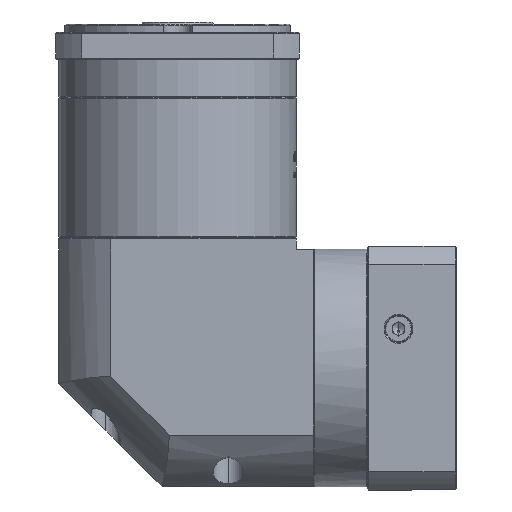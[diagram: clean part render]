
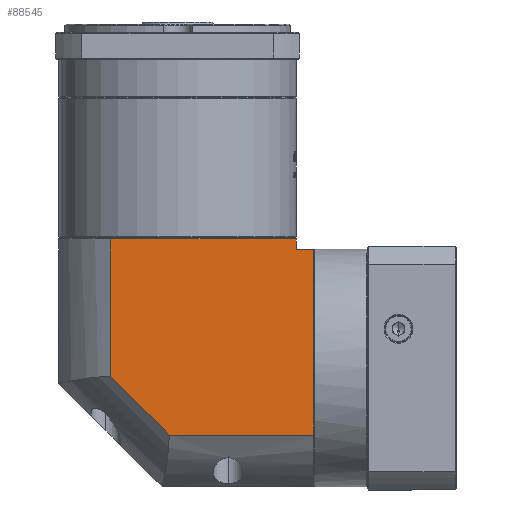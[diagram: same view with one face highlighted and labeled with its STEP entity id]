
A CAD part, left-side view. The second image highlights one B-rep face of the part: STEP entity #88545.
In plain terms, the highlighted planar face has unit normal (-1, 0, 0).
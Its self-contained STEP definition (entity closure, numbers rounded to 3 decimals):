
#1995 = LINE ( 'NONE', #35435, #63590 ) ;
#3306 = CARTESIAN_POINT ( 'NONE',  ( -280.88, -128.987, -75.961 ) ) ;
#4189 = ORIENTED_EDGE ( 'NONE', *, *, #19000, .F. ) ;
#11026 = LINE ( 'NONE', #38361, #74464 ) ;
#13148 = ORIENTED_EDGE ( 'NONE', *, *, #121216, .F. ) ;
#15528 = CARTESIAN_POINT ( 'NONE',  ( -280.88, -39.087, 50.539 ) ) ;
#18880 = CARTESIAN_POINT ( 'NONE',  ( -280.88, -128.987, 39.039 ) ) ;
#19000 = EDGE_CURVE ( 'NONE', #89458, #126148, #11026, .T. ) ;
#19789 = EDGE_CURVE ( 'NONE', #81320, #126148, #127390, .T. ) ;
#26074 = VECTOR ( 'NONE', #46433, 1000. ) ;
#33165 = CARTESIAN_POINT ( 'NONE',  ( -280.88, -67.425, -50.861 ) ) ;
#35435 = CARTESIAN_POINT ( 'NONE',  ( -280.88, -137.387, 50.539 ) ) ;
#38361 = CARTESIAN_POINT ( 'NONE',  ( -280.88, -13.987, 44.039 ) ) ;
#41093 = DIRECTION ( 'NONE',  ( 0., 0., 1. ) ) ;
#41251 = CARTESIAN_POINT ( 'NONE',  ( -280.88, -128.987, 39.039 ) ) ;
#46433 = DIRECTION ( 'NONE',  ( 0., 0.707, 0.707 ) ) ;
#50217 = EDGE_CURVE ( 'NONE', #55175, #96104, #78051, .T. ) ;
#51836 = DIRECTION ( 'NONE',  ( 0., 1., 0. ) ) ;
#52170 = CARTESIAN_POINT ( 'NONE',  ( -280.88, -137.387, 39.039 ) ) ;
#53400 = ORIENTED_EDGE ( 'NONE', *, *, #69080, .F. ) ;
#55175 = VERTEX_POINT ( 'NONE', #98800 ) ;
#59370 = ORIENTED_EDGE ( 'NONE', *, *, #50217, .F. ) ;
#59811 = LINE ( 'NONE', #33165, #26074 ) ;
#62244 = VECTOR ( 'NONE', #51836, 1000. ) ;
#63590 = VECTOR ( 'NONE', #100099, 1000. ) ;
#65785 = FACE_OUTER_BOUND ( 'NONE', #141873, .T. ) ;
#67562 = DIRECTION ( 'NONE',  ( 0., 0., 1. ) ) ;
#68250 = PLANE ( 'NONE',  #154728 ) ;
#69080 = EDGE_CURVE ( 'NONE', #96104, #115180, #59811, .T. ) ;
#69893 = DIRECTION ( 'NONE',  ( 0., 1., 0. ) ) ;
#74098 = LINE ( 'NONE', #18880, #143306 ) ;
#74260 = ORIENTED_EDGE ( 'NONE', *, *, #160234, .F. ) ;
#74464 = VECTOR ( 'NONE', #128566, 1000. ) ;
#74761 = VECTOR ( 'NONE', #41093, 1000. ) ;
#78051 = LINE ( 'NONE', #127622, #62244 ) ;
#81320 = VERTEX_POINT ( 'NONE', #41251 ) ;
#81645 = CARTESIAN_POINT ( 'NONE',  ( -280.88, -39.087, 44.039 ) ) ;
#83673 = ORIENTED_EDGE ( 'NONE', *, *, #144002, .T. ) ;
#88545 = ADVANCED_FACE ( 'NONE', ( #65785 ), #68250, .F. ) ;
#89458 = VERTEX_POINT ( 'NONE', #81645 ) ;
#93856 = CARTESIAN_POINT ( 'NONE',  ( -280.88, -128.987, 44.039 ) ) ;
#95167 = CARTESIAN_POINT ( 'NONE',  ( -280.88, -67.425, -50.861 ) ) ;
#96104 = VERTEX_POINT ( 'NONE', #95167 ) ;
#98800 = CARTESIAN_POINT ( 'NONE',  ( -280.88, -137.387, -50.861 ) ) ;
#100099 = DIRECTION ( 'NONE',  ( 0., 0., -1. ) ) ;
#107543 = VECTOR ( 'NONE', #67562, 1000. ) ;
#109148 = ORIENTED_EDGE ( 'NONE', *, *, #19789, .T. ) ;
#115180 = VERTEX_POINT ( 'NONE', #143657 ) ;
#121216 = EDGE_CURVE ( 'NONE', #115180, #89458, #161946, .T. ) ;
#126148 = VERTEX_POINT ( 'NONE', #93856 ) ;
#127390 = LINE ( 'NONE', #3306, #107543 ) ;
#127622 = CARTESIAN_POINT ( 'NONE',  ( -280.88, -13.987, -50.861 ) ) ;
#128566 = DIRECTION ( 'NONE',  ( 0., -1., 0. ) ) ;
#134033 = CARTESIAN_POINT ( 'NONE',  ( -280.88, -13.987, 50.539 ) ) ;
#141873 = EDGE_LOOP ( 'NONE', ( #13148, #53400, #59370, #74260, #83673, #109148, #4189 ) ) ;
#143306 = VECTOR ( 'NONE', #158912, 1000. ) ;
#143657 = CARTESIAN_POINT ( 'NONE',  ( -280.88, -39.087, -22.523 ) ) ;
#144002 = EDGE_CURVE ( 'NONE', #157343, #81320, #74098, .T. ) ;
#146198 = DIRECTION ( 'NONE',  ( 1., 0., 0. ) ) ;
#154728 = AXIS2_PLACEMENT_3D ( 'NONE', #134033, #146198, #69893 ) ;
#157343 = VERTEX_POINT ( 'NONE', #52170 ) ;
#158912 = DIRECTION ( 'NONE',  ( 0., 1., 0. ) ) ;
#160234 = EDGE_CURVE ( 'NONE', #157343, #55175, #1995, .T. ) ;
#161946 = LINE ( 'NONE', #15528, #74761 ) ;
